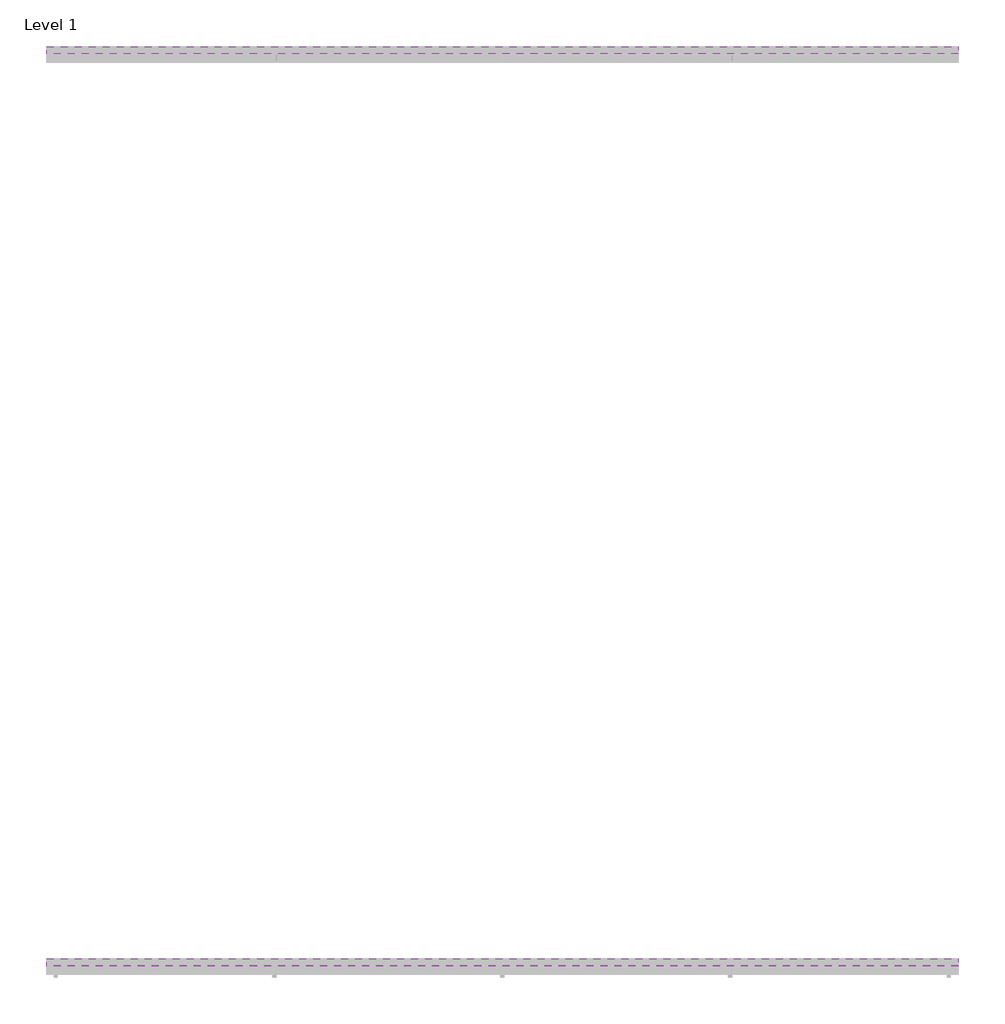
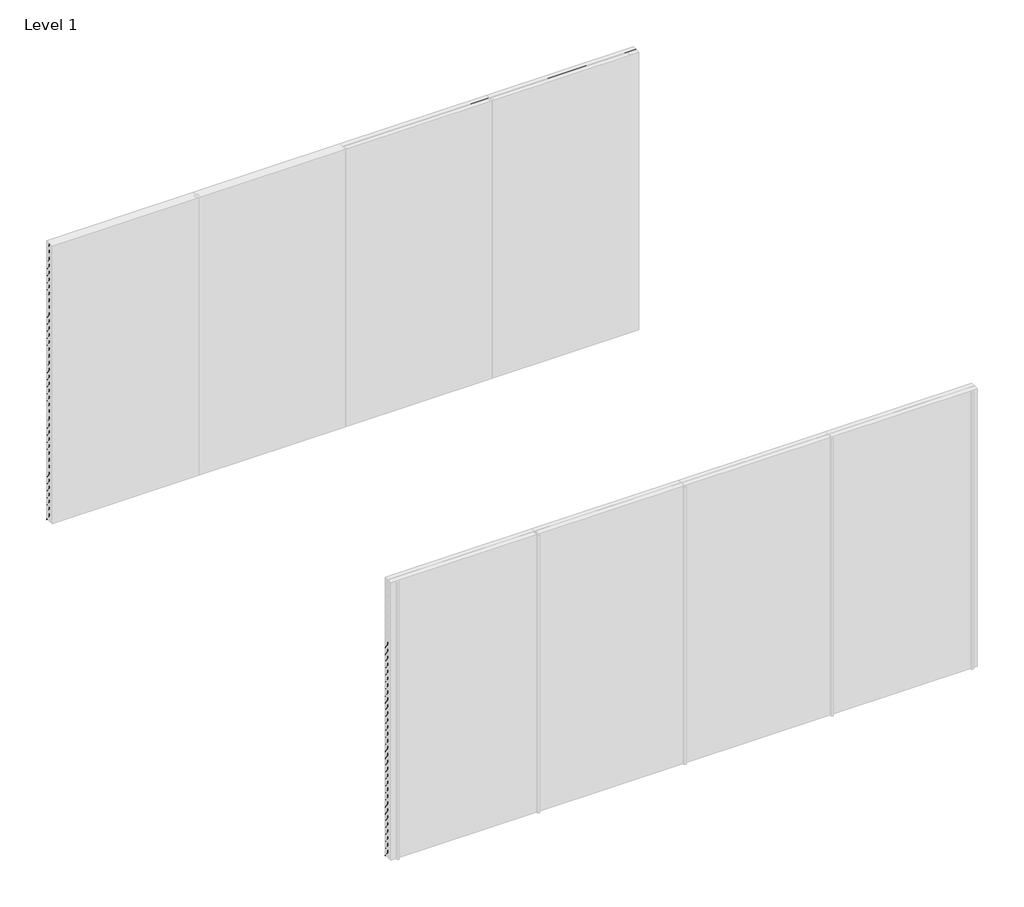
# One storey, part 2 of 2: 71 proxies.
"""IFC4 building model written with IfcOpenShell, lengths in millimetres."""

from ifc_helpers import new_model, si_unit, frame, origin, place, context, project, spatial, polyline, outline, extrude, element, save

model = new_model("IFC4")

# Units and contexts
model_context = context("Model", 3, world=origin())
ifc_project = project(units=[si_unit("LENGTHUNIT", "METRE", prefix="MILLI")], contexts=[model_context])

# Site, building, storey
site = spatial("IfcSite", under=ifc_project)
building = spatial("IfcBuilding", under=site)
storey = spatial("IfcBuildingStorey", under=building, Name="Level 1", Elevation=0.0)

# Proxies
placement = place(None, origin())
element("IfcBuildingElementProxy", 1, Name="Wall Sweeps", at=placement, inside=storey, context=model_context, shape_type="SweptSolid", body=[
    extrude(outline(polyline([(-1995.0, 3000.0), (-1995.0, 2992.2770357), (-1948.3, 2928.0), (-1948.3, 2910.0), (-1997.0, 2977.0297995), (-1997.0, 3000.0), (-1995.0, 3000.0)])), frame((0.0, 0.0, 0.0), z_axis=(1.0, 0.0, 0.0), x_axis=(0.0, 1.0, 0.0)), (0.0, 0.0, 1.0), 6000.0),
])
element("IfcBuildingElementProxy", 2, Name="Wall Sweeps", at=placement, inside=storey, context=model_context, shape_type="SweptSolid", body=[
    extrude(outline(polyline([(-1995.0, 2925.0), (-1995.0, 2917.2770357), (-1948.3, 2853.0), (-1948.3, 2835.0), (-1997.0, 2902.0297995), (-1997.0, 2925.0), (-1995.0, 2925.0)])), frame((0.0, 0.0, 0.0), z_axis=(1.0, 0.0, 0.0), x_axis=(0.0, 1.0, 0.0)), (0.0, 0.0, 1.0), 6000.0),
])
element("IfcBuildingElementProxy", 3, Name="Wall Sweeps", at=placement, inside=storey, context=model_context, shape_type="SweptSolid", body=[
    extrude(outline(polyline([(-1995.0, 2850.0), (-1995.0, 2842.2770357), (-1948.3, 2778.0), (-1948.3, 2760.0), (-1997.0, 2827.0297995), (-1997.0, 2850.0), (-1995.0, 2850.0)])), frame((0.0, 0.0, 0.0), z_axis=(1.0, 0.0, 0.0), x_axis=(0.0, 1.0, 0.0)), (0.0, 0.0, 1.0), 6000.0),
])
element("IfcBuildingElementProxy", 4, Name="Wall Sweeps", at=placement, inside=storey, context=model_context, shape_type="SweptSolid", body=[
    extrude(outline(polyline([(-1995.0, 2775.0), (-1995.0, 2767.2770357), (-1948.3, 2703.0), (-1948.3, 2685.0), (-1997.0, 2752.0297995), (-1997.0, 2775.0), (-1995.0, 2775.0)])), frame((0.0, 0.0, 0.0), z_axis=(1.0, 0.0, 0.0), x_axis=(0.0, 1.0, 0.0)), (0.0, 0.0, 1.0), 6000.0),
])
element("IfcBuildingElementProxy", 5, Name="Wall Sweeps", at=placement, inside=storey, context=model_context, shape_type="SweptSolid", body=[
    extrude(outline(polyline([(-1995.0, 2700.0), (-1995.0, 2692.2770357), (-1948.3, 2628.0), (-1948.3, 2610.0), (-1997.0, 2677.0297995), (-1997.0, 2700.0), (-1995.0, 2700.0)])), frame((0.0, 0.0, 0.0), z_axis=(1.0, 0.0, 0.0), x_axis=(0.0, 1.0, 0.0)), (0.0, 0.0, 1.0), 6000.0),
])
element("IfcBuildingElementProxy", 6, Name="Wall Sweeps", at=placement, inside=storey, context=model_context, shape_type="SweptSolid", body=[
    extrude(outline(polyline([(-1995.0, 2625.0), (-1995.0, 2617.2770357), (-1948.3, 2553.0), (-1948.3, 2535.0), (-1997.0, 2602.0297995), (-1997.0, 2625.0), (-1995.0, 2625.0)])), frame((0.0, 0.0, 0.0), z_axis=(1.0, 0.0, 0.0), x_axis=(0.0, 1.0, 0.0)), (0.0, 0.0, 1.0), 6000.0),
])
element("IfcBuildingElementProxy", 7, Name="Wall Sweeps", at=placement, inside=storey, context=model_context, shape_type="SweptSolid", body=[
    extrude(outline(polyline([(-1995.0, 2550.0), (-1995.0, 2542.2770357), (-1948.3, 2478.0), (-1948.3, 2460.0), (-1997.0, 2527.0297995), (-1997.0, 2550.0), (-1995.0, 2550.0)])), frame((0.0, 0.0, 0.0), z_axis=(1.0, 0.0, 0.0), x_axis=(0.0, 1.0, 0.0)), (0.0, 0.0, 1.0), 6000.0),
])
element("IfcBuildingElementProxy", 8, Name="Wall Sweeps", at=placement, inside=storey, context=model_context, shape_type="SweptSolid", body=[
    extrude(outline(polyline([(-1995.0, 2475.0), (-1995.0, 2467.2770357), (-1948.3, 2403.0), (-1948.3, 2385.0), (-1997.0, 2452.0297995), (-1997.0, 2475.0), (-1995.0, 2475.0)])), frame((0.0, 0.0, 0.0), z_axis=(1.0, 0.0, 0.0), x_axis=(0.0, 1.0, 0.0)), (0.0, 0.0, 1.0), 6000.0),
])
element("IfcBuildingElementProxy", 9, Name="Wall Sweeps", at=placement, inside=storey, context=model_context, shape_type="SweptSolid", body=[
    extrude(outline(polyline([(-1995.0, 2400.0), (-1995.0, 2392.2770357), (-1948.3, 2328.0), (-1948.3, 2310.0), (-1997.0, 2377.0297995), (-1997.0, 2400.0), (-1995.0, 2400.0)])), frame((0.0, 0.0, 0.0), z_axis=(1.0, 0.0, 0.0), x_axis=(0.0, 1.0, 0.0)), (0.0, 0.0, 1.0), 6000.0),
])
element("IfcBuildingElementProxy", 10, Name="Wall Sweeps", at=placement, inside=storey, context=model_context, shape_type="SweptSolid", body=[
    extrude(outline(polyline([(-1995.0, 2325.0), (-1995.0, 2317.2770357), (-1948.3, 2253.0), (-1948.3, 2235.0), (-1997.0, 2302.0297995), (-1997.0, 2325.0), (-1995.0, 2325.0)])), frame((0.0, 0.0, 0.0), z_axis=(1.0, 0.0, 0.0), x_axis=(0.0, 1.0, 0.0)), (0.0, 0.0, 1.0), 6000.0),
])
element("IfcBuildingElementProxy", 11, Name="Wall Sweeps", at=placement, inside=storey, context=model_context, shape_type="SweptSolid", body=[
    extrude(outline(polyline([(-1995.0, 2250.0), (-1995.0, 2242.2770357), (-1948.3, 2178.0), (-1948.3, 2160.0), (-1997.0, 2227.0297995), (-1997.0, 2250.0), (-1995.0, 2250.0)])), frame((0.0, 0.0, 0.0), z_axis=(1.0, 0.0, 0.0), x_axis=(0.0, 1.0, 0.0)), (0.0, 0.0, 1.0), 6000.0),
])
element("IfcBuildingElementProxy", 12, Name="Wall Sweeps", at=placement, inside=storey, context=model_context, shape_type="SweptSolid", body=[
    extrude(outline(polyline([(-1995.0, 2175.0), (-1995.0, 2167.2770357), (-1948.3, 2103.0), (-1948.3, 2085.0), (-1997.0, 2152.0297995), (-1997.0, 2175.0), (-1995.0, 2175.0)])), frame((0.0, 0.0, 0.0), z_axis=(1.0, 0.0, 0.0), x_axis=(0.0, 1.0, 0.0)), (0.0, 0.0, 1.0), 6000.0),
])
element("IfcBuildingElementProxy", 13, Name="Wall Sweeps", at=placement, inside=storey, context=model_context, shape_type="SweptSolid", body=[
    extrude(outline(polyline([(-1995.0, 2100.0), (-1995.0, 2092.2770357), (-1948.3, 2028.0), (-1948.3, 2010.0), (-1997.0, 2077.0297995), (-1997.0, 2100.0), (-1995.0, 2100.0)])), frame((0.0, 0.0, 0.0), z_axis=(1.0, 0.0, 0.0), x_axis=(0.0, 1.0, 0.0)), (0.0, 0.0, 1.0), 6000.0),
])
element("IfcBuildingElementProxy", 14, Name="Wall Sweeps", at=placement, inside=storey, context=model_context, shape_type="SweptSolid", body=[
    extrude(outline(polyline([(-1995.0, 2025.0), (-1995.0, 2017.2770357), (-1948.3, 1953.0), (-1948.3, 1935.0), (-1997.0, 2002.0297995), (-1997.0, 2025.0), (-1995.0, 2025.0)])), frame((0.0, 0.0, 0.0), z_axis=(1.0, 0.0, 0.0), x_axis=(0.0, 1.0, 0.0)), (0.0, 0.0, 1.0), 6000.0),
])
element("IfcBuildingElementProxy", 15, Name="Wall Sweeps", at=placement, inside=storey, context=model_context, shape_type="SweptSolid", body=[
    extrude(outline(polyline([(-1995.0, 1950.0), (-1995.0, 1942.2770357), (-1948.3, 1878.0), (-1948.3, 1860.0), (-1997.0, 1927.0297995), (-1997.0, 1950.0), (-1995.0, 1950.0)])), frame((0.0, 0.0, 0.0), z_axis=(1.0, 0.0, 0.0), x_axis=(0.0, 1.0, 0.0)), (0.0, 0.0, 1.0), 6000.0),
])
element("IfcBuildingElementProxy", 16, Name="Wall Sweeps", at=placement, inside=storey, context=model_context, shape_type="SweptSolid", body=[
    extrude(outline(polyline([(-1995.0, 1875.0), (-1995.0, 1867.2770357), (-1948.3, 1803.0), (-1948.3, 1785.0), (-1997.0, 1852.0297995), (-1997.0, 1875.0), (-1995.0, 1875.0)])), frame((0.0, 0.0, 0.0), z_axis=(1.0, 0.0, 0.0), x_axis=(0.0, 1.0, 0.0)), (0.0, 0.0, 1.0), 6000.0),
])
element("IfcBuildingElementProxy", 17, Name="Wall Sweeps", at=placement, inside=storey, context=model_context, shape_type="SweptSolid", body=[
    extrude(outline(polyline([(-1995.0, 1800.0), (-1995.0, 1792.2770357), (-1948.3, 1728.0), (-1948.3, 1710.0), (-1997.0, 1777.0297995), (-1997.0, 1800.0), (-1995.0, 1800.0)])), frame((0.0, 0.0, 0.0), z_axis=(1.0, 0.0, 0.0), x_axis=(0.0, 1.0, 0.0)), (0.0, 0.0, 1.0), 6000.0),
])
element("IfcBuildingElementProxy", 18, Name="Wall Sweeps", at=placement, inside=storey, context=model_context, shape_type="SweptSolid", body=[
    extrude(outline(polyline([(-1995.0, 1725.0), (-1995.0, 1717.2770357), (-1948.3, 1653.0), (-1948.3, 1635.0), (-1997.0, 1702.0297995), (-1997.0, 1725.0), (-1995.0, 1725.0)])), frame((0.0, 0.0, 0.0), z_axis=(1.0, 0.0, 0.0), x_axis=(0.0, 1.0, 0.0)), (0.0, 0.0, 1.0), 6000.0),
])
element("IfcBuildingElementProxy", 19, Name="Wall Sweeps", at=placement, inside=storey, context=model_context, shape_type="SweptSolid", body=[
    extrude(outline(polyline([(-1995.0, 1650.0), (-1995.0, 1642.2770357), (-1948.3, 1578.0), (-1948.3, 1560.0), (-1997.0, 1627.0297995), (-1997.0, 1650.0), (-1995.0, 1650.0)])), frame((0.0, 0.0, 0.0), z_axis=(1.0, 0.0, 0.0), x_axis=(0.0, 1.0, 0.0)), (0.0, 0.0, 1.0), 6000.0),
])
element("IfcBuildingElementProxy", 20, Name="Wall Sweeps", at=placement, inside=storey, context=model_context, shape_type="SweptSolid", body=[
    extrude(outline(polyline([(-1995.0, 1575.0), (-1995.0, 1567.2770357), (-1948.3, 1503.0), (-1948.3, 1485.0), (-1997.0, 1552.0297995), (-1997.0, 1575.0), (-1995.0, 1575.0)])), frame((0.0, 0.0, 0.0), z_axis=(1.0, 0.0, 0.0), x_axis=(0.0, 1.0, 0.0)), (0.0, 0.0, 1.0), 6000.0),
])
element("IfcBuildingElementProxy", 21, Name="Wall Sweeps", at=placement, inside=storey, context=model_context, shape_type="SweptSolid", body=[
    extrude(outline(polyline([(-1995.0, 1500.0), (-1995.0, 1492.2770357), (-1948.3, 1428.0), (-1948.3, 1410.0), (-1997.0, 1477.0297995), (-1997.0, 1500.0), (-1995.0, 1500.0)])), frame((0.0, 0.0, 0.0), z_axis=(1.0, 0.0, 0.0), x_axis=(0.0, 1.0, 0.0)), (0.0, 0.0, 1.0), 6000.0),
])
element("IfcBuildingElementProxy", 22, Name="Wall Sweeps", at=placement, inside=storey, context=model_context, shape_type="SweptSolid", body=[
    extrude(outline(polyline([(-1995.0, 1425.0), (-1995.0, 1417.2770357), (-1948.3, 1353.0), (-1948.3, 1335.0), (-1997.0, 1402.0297995), (-1997.0, 1425.0), (-1995.0, 1425.0)])), frame((0.0, 0.0, 0.0), z_axis=(1.0, 0.0, 0.0), x_axis=(0.0, 1.0, 0.0)), (0.0, 0.0, 1.0), 6000.0),
])
element("IfcBuildingElementProxy", 23, Name="Wall Sweeps", at=placement, inside=storey, context=model_context, shape_type="SweptSolid", body=[
    extrude(outline(polyline([(-1995.0, 1350.0), (-1995.0, 1342.2770357), (-1948.3, 1278.0), (-1948.3, 1260.0), (-1997.0, 1327.0297995), (-1997.0, 1350.0), (-1995.0, 1350.0)])), frame((0.0, 0.0, 0.0), z_axis=(1.0, 0.0, 0.0), x_axis=(0.0, 1.0, 0.0)), (0.0, 0.0, 1.0), 6000.0),
])
element("IfcBuildingElementProxy", 24, Name="Wall Sweeps", at=placement, inside=storey, context=model_context, shape_type="SweptSolid", body=[
    extrude(outline(polyline([(-1995.0, 1275.0), (-1995.0, 1267.2770357), (-1948.3, 1203.0), (-1948.3, 1185.0), (-1997.0, 1252.0297995), (-1997.0, 1275.0), (-1995.0, 1275.0)])), frame((0.0, 0.0, 0.0), z_axis=(1.0, 0.0, 0.0), x_axis=(0.0, 1.0, 0.0)), (0.0, 0.0, 1.0), 6000.0),
])
element("IfcBuildingElementProxy", 25, Name="Wall Sweeps", at=placement, inside=storey, context=model_context, shape_type="SweptSolid", body=[
    extrude(outline(polyline([(-1995.0, 1200.0), (-1995.0, 1192.2770357), (-1948.3, 1128.0), (-1948.3, 1110.0), (-1997.0, 1177.0297995), (-1997.0, 1200.0), (-1995.0, 1200.0)])), frame((0.0, 0.0, 0.0), z_axis=(1.0, 0.0, 0.0), x_axis=(0.0, 1.0, 0.0)), (0.0, 0.0, 1.0), 6000.0),
])
element("IfcBuildingElementProxy", 26, Name="Wall Sweeps", at=placement, inside=storey, context=model_context, shape_type="SweptSolid", body=[
    extrude(outline(polyline([(-1995.0, 1125.0), (-1995.0, 1117.2770357), (-1948.3, 1053.0), (-1948.3, 1035.0), (-1997.0, 1102.0297995), (-1997.0, 1125.0), (-1995.0, 1125.0)])), frame((0.0, 0.0, 0.0), z_axis=(1.0, 0.0, 0.0), x_axis=(0.0, 1.0, 0.0)), (0.0, 0.0, 1.0), 6000.0),
])
element("IfcBuildingElementProxy", 27, Name="Wall Sweeps", at=placement, inside=storey, context=model_context, shape_type="SweptSolid", body=[
    extrude(outline(polyline([(-1995.0, 1050.0), (-1995.0, 1042.2770357), (-1948.3, 978.0), (-1948.3, 960.0), (-1997.0, 1027.0297995), (-1997.0, 1050.0), (-1995.0, 1050.0)])), frame((0.0, 0.0, 0.0), z_axis=(1.0, 0.0, 0.0), x_axis=(0.0, 1.0, 0.0)), (0.0, 0.0, 1.0), 6000.0),
])
element("IfcBuildingElementProxy", 28, Name="Wall Sweeps", at=placement, inside=storey, context=model_context, shape_type="SweptSolid", body=[
    extrude(outline(polyline([(-1995.0, 975.0), (-1995.0, 967.2770357), (-1948.3, 903.0), (-1948.3, 885.0), (-1997.0, 952.0297995), (-1997.0, 975.0), (-1995.0, 975.0)])), frame((0.0, 0.0, 0.0), z_axis=(1.0, 0.0, 0.0), x_axis=(0.0, 1.0, 0.0)), (0.0, 0.0, 1.0), 6000.0),
])
element("IfcBuildingElementProxy", 29, Name="Wall Sweeps", at=placement, inside=storey, context=model_context, shape_type="SweptSolid", body=[
    extrude(outline(polyline([(-1995.0, 900.0), (-1995.0, 892.2770357), (-1948.3, 828.0), (-1948.3, 810.0), (-1997.0, 877.0297995), (-1997.0, 900.0), (-1995.0, 900.0)])), frame((0.0, 0.0, 0.0), z_axis=(1.0, 0.0, 0.0), x_axis=(0.0, 1.0, 0.0)), (0.0, 0.0, 1.0), 6000.0),
])
element("IfcBuildingElementProxy", 30, Name="Wall Sweeps", at=placement, inside=storey, context=model_context, shape_type="SweptSolid", body=[
    extrude(outline(polyline([(-1995.0, 825.0), (-1995.0, 817.2770357), (-1948.3, 753.0), (-1948.3, 735.0), (-1997.0, 802.0297995), (-1997.0, 825.0), (-1995.0, 825.0)])), frame((0.0, 0.0, 0.0), z_axis=(1.0, 0.0, 0.0), x_axis=(0.0, 1.0, 0.0)), (0.0, 0.0, 1.0), 6000.0),
])
element("IfcBuildingElementProxy", 31, Name="Wall Sweeps", at=placement, inside=storey, context=model_context, shape_type="SweptSolid", body=[
    extrude(outline(polyline([(-1995.0, 750.0), (-1995.0, 742.2770357), (-1948.3, 678.0), (-1948.3, 660.0), (-1997.0, 727.0297995), (-1997.0, 750.0), (-1995.0, 750.0)])), frame((0.0, 0.0, 0.0), z_axis=(1.0, 0.0, 0.0), x_axis=(0.0, 1.0, 0.0)), (0.0, 0.0, 1.0), 6000.0),
])
element("IfcBuildingElementProxy", 32, Name="Wall Sweeps", at=placement, inside=storey, context=model_context, shape_type="SweptSolid", body=[
    extrude(outline(polyline([(-1995.0, 675.0), (-1995.0, 667.2770357), (-1948.3, 603.0), (-1948.3, 585.0), (-1997.0, 652.0297995), (-1997.0, 675.0), (-1995.0, 675.0)])), frame((0.0, 0.0, 0.0), z_axis=(1.0, 0.0, 0.0), x_axis=(0.0, 1.0, 0.0)), (0.0, 0.0, 1.0), 6000.0),
])
element("IfcBuildingElementProxy", 33, Name="Wall Sweeps", at=placement, inside=storey, context=model_context, shape_type="SweptSolid", body=[
    extrude(outline(polyline([(-1995.0, 600.0), (-1995.0, 592.2770357), (-1948.3, 528.0), (-1948.3, 510.0), (-1997.0, 577.0297995), (-1997.0, 600.0), (-1995.0, 600.0)])), frame((0.0, 0.0, 0.0), z_axis=(1.0, 0.0, 0.0), x_axis=(0.0, 1.0, 0.0)), (0.0, 0.0, 1.0), 6000.0),
])
element("IfcBuildingElementProxy", 34, Name="Wall Sweeps", at=placement, inside=storey, context=model_context, shape_type="SweptSolid", body=[
    extrude(outline(polyline([(-1995.0, 525.0), (-1995.0, 517.2770357), (-1948.3, 453.0), (-1948.3, 435.0), (-1997.0, 502.0297995), (-1997.0, 525.0), (-1995.0, 525.0)])), frame((0.0, 0.0, 0.0), z_axis=(1.0, 0.0, 0.0), x_axis=(0.0, 1.0, 0.0)), (0.0, 0.0, 1.0), 6000.0),
])
element("IfcBuildingElementProxy", 35, Name="Wall Sweeps", at=placement, inside=storey, context=model_context, shape_type="SweptSolid", body=[
    extrude(outline(polyline([(-1995.0, 450.0), (-1995.0, 442.2770357), (-1948.3, 378.0), (-1948.3, 360.0), (-1997.0, 427.0297995), (-1997.0, 450.0), (-1995.0, 450.0)])), frame((0.0, 0.0, 0.0), z_axis=(1.0, 0.0, 0.0), x_axis=(0.0, 1.0, 0.0)), (0.0, 0.0, 1.0), 6000.0),
])
element("IfcBuildingElementProxy", 36, Name="Wall Sweeps", at=placement, inside=storey, context=model_context, shape_type="SweptSolid", body=[
    extrude(outline(polyline([(-1995.0, 375.0), (-1995.0, 367.2770357), (-1948.3, 303.0), (-1948.3, 285.0), (-1997.0, 352.0297995), (-1997.0, 375.0), (-1995.0, 375.0)])), frame((0.0, 0.0, 0.0), z_axis=(1.0, 0.0, 0.0), x_axis=(0.0, 1.0, 0.0)), (0.0, 0.0, 1.0), 6000.0),
])
element("IfcBuildingElementProxy", 37, Name="Wall Sweeps", at=placement, inside=storey, context=model_context, shape_type="SweptSolid", body=[
    extrude(outline(polyline([(-1995.0, 300.0), (-1995.0, 292.2770357), (-1948.3, 228.0), (-1948.3, 210.0), (-1997.0, 277.0297995), (-1997.0, 300.0), (-1995.0, 300.0)])), frame((0.0, 0.0, 0.0), z_axis=(1.0, 0.0, 0.0), x_axis=(0.0, 1.0, 0.0)), (0.0, 0.0, 1.0), 6000.0),
])
element("IfcBuildingElementProxy", 38, Name="Wall Sweeps", at=placement, inside=storey, context=model_context, shape_type="SweptSolid", body=[
    extrude(outline(polyline([(-1995.0, 225.0), (-1995.0, 217.2770357), (-1948.3, 153.0), (-1948.3, 135.0), (-1997.0, 202.0297995), (-1997.0, 225.0), (-1995.0, 225.0)])), frame((0.0, 0.0, 0.0), z_axis=(1.0, 0.0, 0.0), x_axis=(0.0, 1.0, 0.0)), (0.0, 0.0, 1.0), 6000.0),
])
element("IfcBuildingElementProxy", 39, Name="Wall Sweeps", at=placement, inside=storey, context=model_context, shape_type="SweptSolid", body=[
    extrude(outline(polyline([(-1995.0, 150.0), (-1995.0, 142.2770357), (-1948.3, 78.0), (-1948.3, 60.0), (-1997.0, 127.0297995), (-1997.0, 150.0), (-1995.0, 150.0)])), frame((0.0, 0.0, 0.0), z_axis=(1.0, 0.0, 0.0), x_axis=(0.0, 1.0, 0.0)), (0.0, 0.0, 1.0), 6000.0),
])
element("IfcBuildingElementProxy", 40, Name="Wall Sweeps", at=placement, inside=storey, context=model_context, shape_type="SweptSolid", body=[
    extrude(outline(polyline([(-1995.0, 75.0), (-1995.0, 67.2770357), (-1948.3, 3.0), (-1948.3, -15.0), (-1997.0, 52.0297995), (-1997.0, 75.0), (-1995.0, 75.0)])), frame((0.0, 0.0, 0.0), z_axis=(1.0, 0.0, 0.0), x_axis=(0.0, 1.0, 0.0)), (0.0, 0.0, 1.0), 6000.0),
])
element("IfcBuildingElementProxy", 41, Name="Wall Sweeps", at=placement, inside=storey, context=model_context, shape_type="SweptSolid", body=[
    extrude(outline(polyline([(-7995.0, 2325.0), (-7995.0, 2317.2770357), (-7948.3, 2253.0), (-7948.3, 2235.0), (-7997.0, 2302.0297995), (-7997.0, 2325.0), (-7995.0, 2325.0)])), frame((0.0, 0.0, 0.0), z_axis=(1.0, 0.0, 0.0), x_axis=(0.0, 1.0, 0.0)), (0.0, 0.0, 1.0), 6000.0),
])
element("IfcBuildingElementProxy", 42, Name="Wall Sweeps", at=placement, inside=storey, context=model_context, shape_type="SweptSolid", body=[
    extrude(outline(polyline([(-7995.0, 2250.0), (-7995.0, 2242.2770357), (-7948.3, 2178.0), (-7948.3, 2160.0), (-7997.0, 2227.0297995), (-7997.0, 2250.0), (-7995.0, 2250.0)])), frame((0.0, 0.0, 0.0), z_axis=(1.0, 0.0, 0.0), x_axis=(0.0, 1.0, 0.0)), (0.0, 0.0, 1.0), 6000.0),
])
element("IfcBuildingElementProxy", 43, Name="Wall Sweeps", at=placement, inside=storey, context=model_context, shape_type="SweptSolid", body=[
    extrude(outline(polyline([(-7995.0, 2175.0), (-7995.0, 2167.2770357), (-7948.3, 2103.0), (-7948.3, 2085.0), (-7997.0, 2152.0297995), (-7997.0, 2175.0), (-7995.0, 2175.0)])), frame((0.0, 0.0, 0.0), z_axis=(1.0, 0.0, 0.0), x_axis=(0.0, 1.0, 0.0)), (0.0, 0.0, 1.0), 6000.0),
])
element("IfcBuildingElementProxy", 44, Name="Wall Sweeps", at=placement, inside=storey, context=model_context, shape_type="SweptSolid", body=[
    extrude(outline(polyline([(-7995.0, 2100.0), (-7995.0, 2092.2770357), (-7948.3, 2028.0), (-7948.3, 2010.0), (-7997.0, 2077.0297995), (-7997.0, 2100.0), (-7995.0, 2100.0)])), frame((0.0, 0.0, 0.0), z_axis=(1.0, 0.0, 0.0), x_axis=(0.0, 1.0, 0.0)), (0.0, 0.0, 1.0), 6000.0),
])
element("IfcBuildingElementProxy", 45, Name="Wall Sweeps", at=placement, inside=storey, context=model_context, shape_type="SweptSolid", body=[
    extrude(outline(polyline([(-7995.0, 2025.0), (-7995.0, 2017.2770357), (-7948.3, 1953.0), (-7948.3, 1935.0), (-7997.0, 2002.0297995), (-7997.0, 2025.0), (-7995.0, 2025.0)])), frame((0.0, 0.0, 0.0), z_axis=(1.0, 0.0, 0.0), x_axis=(0.0, 1.0, 0.0)), (0.0, 0.0, 1.0), 6000.0),
])
element("IfcBuildingElementProxy", 46, Name="Wall Sweeps", at=placement, inside=storey, context=model_context, shape_type="SweptSolid", body=[
    extrude(outline(polyline([(-7995.0, 1950.0), (-7995.0, 1942.2770357), (-7948.3, 1878.0), (-7948.3, 1860.0), (-7997.0, 1927.0297995), (-7997.0, 1950.0), (-7995.0, 1950.0)])), frame((0.0, 0.0, 0.0), z_axis=(1.0, 0.0, 0.0), x_axis=(0.0, 1.0, 0.0)), (0.0, 0.0, 1.0), 6000.0),
])
element("IfcBuildingElementProxy", 47, Name="Wall Sweeps", at=placement, inside=storey, context=model_context, shape_type="SweptSolid", body=[
    extrude(outline(polyline([(-7995.0, 1875.0), (-7995.0, 1867.2770357), (-7948.3, 1803.0), (-7948.3, 1785.0), (-7997.0, 1852.0297995), (-7997.0, 1875.0), (-7995.0, 1875.0)])), frame((0.0, 0.0, 0.0), z_axis=(1.0, 0.0, 0.0), x_axis=(0.0, 1.0, 0.0)), (0.0, 0.0, 1.0), 6000.0),
])
element("IfcBuildingElementProxy", 48, Name="Wall Sweeps", at=placement, inside=storey, context=model_context, shape_type="SweptSolid", body=[
    extrude(outline(polyline([(-7995.0, 1800.0), (-7995.0, 1792.2770357), (-7948.3, 1728.0), (-7948.3, 1710.0), (-7997.0, 1777.0297995), (-7997.0, 1800.0), (-7995.0, 1800.0)])), frame((0.0, 0.0, 0.0), z_axis=(1.0, 0.0, 0.0), x_axis=(0.0, 1.0, 0.0)), (0.0, 0.0, 1.0), 6000.0),
])
element("IfcBuildingElementProxy", 49, Name="Wall Sweeps", at=placement, inside=storey, context=model_context, shape_type="SweptSolid", body=[
    extrude(outline(polyline([(-7995.0, 1725.0), (-7995.0, 1717.2770357), (-7948.3, 1653.0), (-7948.3, 1635.0), (-7997.0, 1702.0297995), (-7997.0, 1725.0), (-7995.0, 1725.0)])), frame((0.0, 0.0, 0.0), z_axis=(1.0, 0.0, 0.0), x_axis=(0.0, 1.0, 0.0)), (0.0, 0.0, 1.0), 6000.0),
])
element("IfcBuildingElementProxy", 50, Name="Wall Sweeps", at=placement, inside=storey, context=model_context, shape_type="SweptSolid", body=[
    extrude(outline(polyline([(-7995.0, 1650.0), (-7995.0, 1642.2770357), (-7948.3, 1578.0), (-7948.3, 1560.0), (-7997.0, 1627.0297995), (-7997.0, 1650.0), (-7995.0, 1650.0)])), frame((0.0, 0.0, 0.0), z_axis=(1.0, 0.0, 0.0), x_axis=(0.0, 1.0, 0.0)), (0.0, 0.0, 1.0), 6000.0),
])
element("IfcBuildingElementProxy", 51, Name="Wall Sweeps", at=placement, inside=storey, context=model_context, shape_type="SweptSolid", body=[
    extrude(outline(polyline([(-7995.0, 1575.0), (-7995.0, 1567.2770357), (-7948.3, 1503.0), (-7948.3, 1485.0), (-7997.0, 1552.0297995), (-7997.0, 1575.0), (-7995.0, 1575.0)])), frame((0.0, 0.0, 0.0), z_axis=(1.0, 0.0, 0.0), x_axis=(0.0, 1.0, 0.0)), (0.0, 0.0, 1.0), 6000.0),
])
element("IfcBuildingElementProxy", 52, Name="Wall Sweeps", at=placement, inside=storey, context=model_context, shape_type="SweptSolid", body=[
    extrude(outline(polyline([(-7995.0, 1500.0), (-7995.0, 1492.2770357), (-7948.3, 1428.0), (-7948.3, 1410.0), (-7997.0, 1477.0297995), (-7997.0, 1500.0), (-7995.0, 1500.0)])), frame((0.0, 0.0, 0.0), z_axis=(1.0, 0.0, 0.0), x_axis=(0.0, 1.0, 0.0)), (0.0, 0.0, 1.0), 6000.0),
])
element("IfcBuildingElementProxy", 53, Name="Wall Sweeps", at=placement, inside=storey, context=model_context, shape_type="SweptSolid", body=[
    extrude(outline(polyline([(-7995.0, 1425.0), (-7995.0, 1417.2770357), (-7948.3, 1353.0), (-7948.3, 1335.0), (-7997.0, 1402.0297995), (-7997.0, 1425.0), (-7995.0, 1425.0)])), frame((0.0, 0.0, 0.0), z_axis=(1.0, 0.0, 0.0), x_axis=(0.0, 1.0, 0.0)), (0.0, 0.0, 1.0), 6000.0),
])
element("IfcBuildingElementProxy", 54, Name="Wall Sweeps", at=placement, inside=storey, context=model_context, shape_type="SweptSolid", body=[
    extrude(outline(polyline([(-7995.0, 1350.0), (-7995.0, 1342.2770357), (-7948.3, 1278.0), (-7948.3, 1260.0), (-7997.0, 1327.0297995), (-7997.0, 1350.0), (-7995.0, 1350.0)])), frame((0.0, 0.0, 0.0), z_axis=(1.0, 0.0, 0.0), x_axis=(0.0, 1.0, 0.0)), (0.0, 0.0, 1.0), 6000.0),
])
element("IfcBuildingElementProxy", 55, Name="Wall Sweeps", at=placement, inside=storey, context=model_context, shape_type="SweptSolid", body=[
    extrude(outline(polyline([(-7995.0, 1275.0), (-7995.0, 1267.2770357), (-7948.3, 1203.0), (-7948.3, 1185.0), (-7997.0, 1252.0297995), (-7997.0, 1275.0), (-7995.0, 1275.0)])), frame((0.0, 0.0, 0.0), z_axis=(1.0, 0.0, 0.0), x_axis=(0.0, 1.0, 0.0)), (0.0, 0.0, 1.0), 6000.0),
])
element("IfcBuildingElementProxy", 56, Name="Wall Sweeps", at=placement, inside=storey, context=model_context, shape_type="SweptSolid", body=[
    extrude(outline(polyline([(-7995.0, 1200.0), (-7995.0, 1192.2770357), (-7948.3, 1128.0), (-7948.3, 1110.0), (-7997.0, 1177.0297995), (-7997.0, 1200.0), (-7995.0, 1200.0)])), frame((0.0, 0.0, 0.0), z_axis=(1.0, 0.0, 0.0), x_axis=(0.0, 1.0, 0.0)), (0.0, 0.0, 1.0), 6000.0),
])
element("IfcBuildingElementProxy", 57, Name="Wall Sweeps", at=placement, inside=storey, context=model_context, shape_type="SweptSolid", body=[
    extrude(outline(polyline([(-7995.0, 1125.0), (-7995.0, 1117.2770357), (-7948.3, 1053.0), (-7948.3, 1035.0), (-7997.0, 1102.0297995), (-7997.0, 1125.0), (-7995.0, 1125.0)])), frame((0.0, 0.0, 0.0), z_axis=(1.0, 0.0, 0.0), x_axis=(0.0, 1.0, 0.0)), (0.0, 0.0, 1.0), 6000.0),
])
element("IfcBuildingElementProxy", 58, Name="Wall Sweeps", at=placement, inside=storey, context=model_context, shape_type="SweptSolid", body=[
    extrude(outline(polyline([(-7995.0, 1050.0), (-7995.0, 1042.2770357), (-7948.3, 978.0), (-7948.3, 960.0), (-7997.0, 1027.0297995), (-7997.0, 1050.0), (-7995.0, 1050.0)])), frame((0.0, 0.0, 0.0), z_axis=(1.0, 0.0, 0.0), x_axis=(0.0, 1.0, 0.0)), (0.0, 0.0, 1.0), 6000.0),
])
element("IfcBuildingElementProxy", 59, Name="Wall Sweeps", at=placement, inside=storey, context=model_context, shape_type="SweptSolid", body=[
    extrude(outline(polyline([(-7995.0, 975.0), (-7995.0, 967.2770357), (-7948.3, 903.0), (-7948.3, 885.0), (-7997.0, 952.0297995), (-7997.0, 975.0), (-7995.0, 975.0)])), frame((0.0, 0.0, 0.0), z_axis=(1.0, 0.0, 0.0), x_axis=(0.0, 1.0, 0.0)), (0.0, 0.0, 1.0), 6000.0),
])
element("IfcBuildingElementProxy", 60, Name="Wall Sweeps", at=placement, inside=storey, context=model_context, shape_type="SweptSolid", body=[
    extrude(outline(polyline([(-7995.0, 900.0), (-7995.0, 892.2770357), (-7948.3, 828.0), (-7948.3, 810.0), (-7997.0, 877.0297995), (-7997.0, 900.0), (-7995.0, 900.0)])), frame((0.0, 0.0, 0.0), z_axis=(1.0, 0.0, 0.0), x_axis=(0.0, 1.0, 0.0)), (0.0, 0.0, 1.0), 6000.0),
])
element("IfcBuildingElementProxy", 61, Name="Wall Sweeps", at=placement, inside=storey, context=model_context, shape_type="SweptSolid", body=[
    extrude(outline(polyline([(-7995.0, 825.0), (-7995.0, 817.2770357), (-7948.3, 753.0), (-7948.3, 735.0), (-7997.0, 802.0297995), (-7997.0, 825.0), (-7995.0, 825.0)])), frame((0.0, 0.0, 0.0), z_axis=(1.0, 0.0, 0.0), x_axis=(0.0, 1.0, 0.0)), (0.0, 0.0, 1.0), 6000.0),
])
element("IfcBuildingElementProxy", 62, Name="Wall Sweeps", at=placement, inside=storey, context=model_context, shape_type="SweptSolid", body=[
    extrude(outline(polyline([(-7995.0, 750.0), (-7995.0, 742.2770357), (-7948.3, 678.0), (-7948.3, 660.0), (-7997.0, 727.0297995), (-7997.0, 750.0), (-7995.0, 750.0)])), frame((0.0, 0.0, 0.0), z_axis=(1.0, 0.0, 0.0), x_axis=(0.0, 1.0, 0.0)), (0.0, 0.0, 1.0), 6000.0),
])
element("IfcBuildingElementProxy", 63, Name="Wall Sweeps", at=placement, inside=storey, context=model_context, shape_type="SweptSolid", body=[
    extrude(outline(polyline([(-7995.0, 675.0), (-7995.0, 667.2770357), (-7948.3, 603.0), (-7948.3, 585.0), (-7997.0, 652.0297995), (-7997.0, 675.0), (-7995.0, 675.0)])), frame((0.0, 0.0, 0.0), z_axis=(1.0, 0.0, 0.0), x_axis=(0.0, 1.0, 0.0)), (0.0, 0.0, 1.0), 6000.0),
])
element("IfcBuildingElementProxy", 64, Name="Wall Sweeps", at=placement, inside=storey, context=model_context, shape_type="SweptSolid", body=[
    extrude(outline(polyline([(-7995.0, 600.0), (-7995.0, 592.2770357), (-7948.3, 528.0), (-7948.3, 510.0), (-7997.0, 577.0297995), (-7997.0, 600.0), (-7995.0, 600.0)])), frame((0.0, 0.0, 0.0), z_axis=(1.0, 0.0, 0.0), x_axis=(0.0, 1.0, 0.0)), (0.0, 0.0, 1.0), 6000.0),
])
element("IfcBuildingElementProxy", 65, Name="Wall Sweeps", at=placement, inside=storey, context=model_context, shape_type="SweptSolid", body=[
    extrude(outline(polyline([(-7995.0, 525.0), (-7995.0, 517.2770357), (-7948.3, 453.0), (-7948.3, 435.0), (-7997.0, 502.0297995), (-7997.0, 525.0), (-7995.0, 525.0)])), frame((0.0, 0.0, 0.0), z_axis=(1.0, 0.0, 0.0), x_axis=(0.0, 1.0, 0.0)), (0.0, 0.0, 1.0), 6000.0),
])
element("IfcBuildingElementProxy", 66, Name="Wall Sweeps", at=placement, inside=storey, context=model_context, shape_type="SweptSolid", body=[
    extrude(outline(polyline([(-7995.0, 450.0), (-7995.0, 442.2770357), (-7948.3, 378.0), (-7948.3, 360.0), (-7997.0, 427.0297995), (-7997.0, 450.0), (-7995.0, 450.0)])), frame((0.0, 0.0, 0.0), z_axis=(1.0, 0.0, 0.0), x_axis=(0.0, 1.0, 0.0)), (0.0, 0.0, 1.0), 6000.0),
])
element("IfcBuildingElementProxy", 67, Name="Wall Sweeps", at=placement, inside=storey, context=model_context, shape_type="SweptSolid", body=[
    extrude(outline(polyline([(-7995.0, 375.0), (-7995.0, 367.2770357), (-7948.3, 303.0), (-7948.3, 285.0), (-7997.0, 352.0297995), (-7997.0, 375.0), (-7995.0, 375.0)])), frame((0.0, 0.0, 0.0), z_axis=(1.0, 0.0, 0.0), x_axis=(0.0, 1.0, 0.0)), (0.0, 0.0, 1.0), 6000.0),
])
element("IfcBuildingElementProxy", 68, Name="Wall Sweeps", at=placement, inside=storey, context=model_context, shape_type="SweptSolid", body=[
    extrude(outline(polyline([(-7995.0, 300.0), (-7995.0, 292.2770357), (-7948.3, 228.0), (-7948.3, 210.0), (-7997.0, 277.0297995), (-7997.0, 300.0), (-7995.0, 300.0)])), frame((0.0, 0.0, 0.0), z_axis=(1.0, 0.0, 0.0), x_axis=(0.0, 1.0, 0.0)), (0.0, 0.0, 1.0), 6000.0),
])
element("IfcBuildingElementProxy", 69, Name="Wall Sweeps", at=placement, inside=storey, context=model_context, shape_type="SweptSolid", body=[
    extrude(outline(polyline([(-7995.0, 225.0), (-7995.0, 217.2770357), (-7948.3, 153.0), (-7948.3, 135.0), (-7997.0, 202.0297995), (-7997.0, 225.0), (-7995.0, 225.0)])), frame((0.0, 0.0, 0.0), z_axis=(1.0, 0.0, 0.0), x_axis=(0.0, 1.0, 0.0)), (0.0, 0.0, 1.0), 6000.0),
])
element("IfcBuildingElementProxy", 70, Name="Wall Sweeps", at=placement, inside=storey, context=model_context, shape_type="SweptSolid", body=[
    extrude(outline(polyline([(-7995.0, 150.0), (-7995.0, 142.2770357), (-7948.3, 78.0), (-7948.3, 60.0), (-7997.0, 127.0297995), (-7997.0, 150.0), (-7995.0, 150.0)])), frame((0.0, 0.0, 0.0), z_axis=(1.0, 0.0, 0.0), x_axis=(0.0, 1.0, 0.0)), (0.0, 0.0, 1.0), 6000.0),
])
element("IfcBuildingElementProxy", 71, Name="Wall Sweeps", at=placement, inside=storey, context=model_context, shape_type="SweptSolid", body=[
    extrude(outline(polyline([(-7995.0, 75.0), (-7995.0, 67.2770357), (-7948.3, 3.0), (-7948.3, -15.0), (-7997.0, 52.0297995), (-7997.0, 75.0), (-7995.0, 75.0)])), frame((0.0, 0.0, 0.0), z_axis=(1.0, 0.0, 0.0), x_axis=(0.0, 1.0, 0.0)), (0.0, 0.0, 1.0), 6000.0),
])

save(model, "model.ifc")
